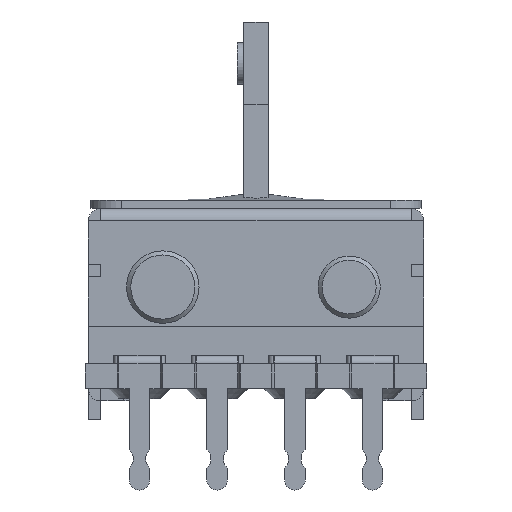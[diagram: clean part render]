
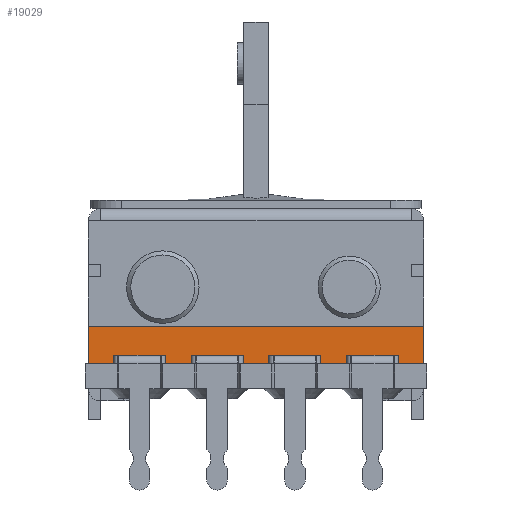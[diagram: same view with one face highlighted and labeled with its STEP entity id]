
A CAD part, left-side view. The second image highlights one B-rep face of the part: STEP entity #19029.
In plain terms, the highlighted planar face has unit normal (-1, 0, 0).
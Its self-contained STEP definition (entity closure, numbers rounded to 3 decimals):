
#182 = PLANE('',#183);
#183 = AXIS2_PLACEMENT_3D('',#184,#185,#186);
#184 = CARTESIAN_POINT('',(0.,8.1,-8.466));
#185 = DIRECTION('',(0.,1.,0.));
#186 = DIRECTION('',(0.,0.,1.));
#283 = PLANE('',#284);
#284 = AXIS2_PLACEMENT_3D('',#285,#286,#287);
#285 = CARTESIAN_POINT('',(0.,-8.1,-8.466));
#286 = DIRECTION('',(0.,-1.,0.));
#287 = DIRECTION('',(0.,0.,-1.));
#5053 = VERTEX_POINT('',#5054);
#5054 = CARTESIAN_POINT('',(-31.,-8.1,-6.1));
#5067 = PLANE('',#5068);
#5068 = AXIS2_PLACEMENT_3D('',#5069,#5070,#5071);
#5069 = CARTESIAN_POINT('',(-40.,10.,-6.1));
#5070 = DIRECTION('',(0.,0.,1.));
#5071 = DIRECTION('',(1.,0.,0.));
#5078 = EDGE_CURVE('',#5079,#5053,#5081,.T.);
#5079 = VERTEX_POINT('',#5080);
#5080 = CARTESIAN_POINT('',(-31.,-8.1,-7.9));
#5081 = SURFACE_CURVE('',#5082,(#5086,#5092),.PCURVE_S1.);
#5082 = LINE('',#5083,#5084);
#5083 = CARTESIAN_POINT('',(-31.,-8.1,-7.283));
#5084 = VECTOR('',#5085,1.);
#5085 = DIRECTION('',(0.,0.,1.));
#5086 = PCURVE('',#283,#5087);
#5087 = DEFINITIONAL_REPRESENTATION('',(#5088),#5091);
#5088 = B_SPLINE_CURVE_WITH_KNOTS('',1,(#5089,#5090),.UNSPECIFIED.,.F.,
  .F.,(2,2),(-0.617,1.183),.PIECEWISE_BEZIER_KNOTS.);
#5089 = CARTESIAN_POINT('',(-0.566,-31.));
#5090 = CARTESIAN_POINT('',(-2.366,-31.));
#5091 = ( GEOMETRIC_REPRESENTATION_CONTEXT(2) 
PARAMETRIC_REPRESENTATION_CONTEXT() REPRESENTATION_CONTEXT('2D SPACE',''
  ) );
#5092 = PCURVE('',#5093,#5098);
#5093 = PLANE('',#5094);
#5094 = AXIS2_PLACEMENT_3D('',#5095,#5096,#5097);
#5095 = CARTESIAN_POINT('',(-31.,10.,-6.1));
#5096 = DIRECTION('',(1.,0.,0.));
#5097 = DIRECTION('',(0.,0.,-1.));
#5098 = DEFINITIONAL_REPRESENTATION('',(#5099),#5102);
#5099 = B_SPLINE_CURVE_WITH_KNOTS('',1,(#5100,#5101),.UNSPECIFIED.,.F.,
  .F.,(2,2),(-0.617,1.183),.PIECEWISE_BEZIER_KNOTS.);
#5100 = CARTESIAN_POINT('',(1.8,-18.1));
#5101 = CARTESIAN_POINT('',(0.,-18.1));
#5102 = ( GEOMETRIC_REPRESENTATION_CONTEXT(2) 
PARAMETRIC_REPRESENTATION_CONTEXT() REPRESENTATION_CONTEXT('2D SPACE',''
  ) );
#5119 = PLANE('',#5120);
#5120 = AXIS2_PLACEMENT_3D('',#5121,#5122,#5123);
#5121 = CARTESIAN_POINT('',(-36.5,-8.25,-7.9));
#5122 = DIRECTION('',(0.,0.,1.));
#5123 = DIRECTION('',(1.,0.,0.));
#7421 = VERTEX_POINT('',#7422);
#7422 = CARTESIAN_POINT('',(-31.,8.1,-7.9));
#7442 = EDGE_CURVE('',#7443,#7421,#7445,.T.);
#7443 = VERTEX_POINT('',#7444);
#7444 = CARTESIAN_POINT('',(-31.,8.1,-6.1));
#7445 = SURFACE_CURVE('',#7446,(#7450,#7456),.PCURVE_S1.);
#7446 = LINE('',#7447,#7448);
#7447 = CARTESIAN_POINT('',(-31.,8.1,-7.283));
#7448 = VECTOR('',#7449,1.);
#7449 = DIRECTION('',(0.,0.,-1.));
#7450 = PCURVE('',#182,#7451);
#7451 = DEFINITIONAL_REPRESENTATION('',(#7452),#7455);
#7452 = B_SPLINE_CURVE_WITH_KNOTS('',1,(#7453,#7454),.UNSPECIFIED.,.F.,
  .F.,(2,2),(-1.183,0.617),.PIECEWISE_BEZIER_KNOTS.);
#7453 = CARTESIAN_POINT('',(2.366,-31.));
#7454 = CARTESIAN_POINT('',(0.566,-31.));
#7455 = ( GEOMETRIC_REPRESENTATION_CONTEXT(2) 
PARAMETRIC_REPRESENTATION_CONTEXT() REPRESENTATION_CONTEXT('2D SPACE',''
  ) );
#7456 = PCURVE('',#5093,#7457);
#7457 = DEFINITIONAL_REPRESENTATION('',(#7458),#7461);
#7458 = B_SPLINE_CURVE_WITH_KNOTS('',1,(#7459,#7460),.UNSPECIFIED.,.F.,
  .F.,(2,2),(-1.183,0.617),.PIECEWISE_BEZIER_KNOTS.);
#7459 = CARTESIAN_POINT('',(0.,-1.9));
#7460 = CARTESIAN_POINT('',(1.8,-1.9));
#7461 = ( GEOMETRIC_REPRESENTATION_CONTEXT(2) 
PARAMETRIC_REPRESENTATION_CONTEXT() REPRESENTATION_CONTEXT('2D SPACE',''
  ) );
#17120 = EDGE_CURVE('',#17121,#5079,#17123,.T.);
#17121 = VERTEX_POINT('',#17122);
#17122 = CARTESIAN_POINT('',(-31.,-7.5,-7.9));
#17123 = SURFACE_CURVE('',#17124,(#17128,#17135),.PCURVE_S1.);
#17124 = LINE('',#17125,#17126);
#17125 = CARTESIAN_POINT('',(-31.,10.,-7.9));
#17126 = VECTOR('',#17127,1.);
#17127 = DIRECTION('',(0.,-1.,0.));
#17128 = PCURVE('',#5119,#17129);
#17129 = DEFINITIONAL_REPRESENTATION('',(#17130),#17134);
#17130 = LINE('',#17131,#17132);
#17131 = CARTESIAN_POINT('',(5.5,18.25));
#17132 = VECTOR('',#17133,1.);
#17133 = DIRECTION('',(0.,-1.));
#17134 = ( GEOMETRIC_REPRESENTATION_CONTEXT(2) 
PARAMETRIC_REPRESENTATION_CONTEXT() REPRESENTATION_CONTEXT('2D SPACE',''
  ) );
#17135 = PCURVE('',#5093,#17136);
#17136 = DEFINITIONAL_REPRESENTATION('',(#17137),#17141);
#17137 = LINE('',#17138,#17139);
#17138 = CARTESIAN_POINT('',(1.8,0.));
#17139 = VECTOR('',#17140,1.);
#17140 = DIRECTION('',(0.,-1.));
#17141 = ( GEOMETRIC_REPRESENTATION_CONTEXT(2) 
PARAMETRIC_REPRESENTATION_CONTEXT() REPRESENTATION_CONTEXT('2D SPACE',''
  ) );
#17143 = EDGE_CURVE('',#17144,#17121,#17146,.T.);
#17144 = VERTEX_POINT('',#17145);
#17145 = CARTESIAN_POINT('',(-31.,7.5,-7.9));
#17146 = SURFACE_CURVE('',#17147,(#17151,#17158),.PCURVE_S1.);
#17147 = LINE('',#17148,#17149);
#17148 = CARTESIAN_POINT('',(-31.,10.,-7.9));
#17149 = VECTOR('',#17150,1.);
#17150 = DIRECTION('',(0.,-1.,0.));
#17151 = PCURVE('',#5119,#17152);
#17152 = DEFINITIONAL_REPRESENTATION('',(#17153),#17157);
#17153 = LINE('',#17154,#17155);
#17154 = CARTESIAN_POINT('',(5.5,18.25));
#17155 = VECTOR('',#17156,1.);
#17156 = DIRECTION('',(0.,-1.));
#17157 = ( GEOMETRIC_REPRESENTATION_CONTEXT(2) 
PARAMETRIC_REPRESENTATION_CONTEXT() REPRESENTATION_CONTEXT('2D SPACE',''
  ) );
#17158 = PCURVE('',#5093,#17159);
#17159 = DEFINITIONAL_REPRESENTATION('',(#17160),#17164);
#17160 = LINE('',#17161,#17162);
#17161 = CARTESIAN_POINT('',(1.8,0.));
#17162 = VECTOR('',#17163,1.);
#17163 = DIRECTION('',(0.,-1.));
#17164 = ( GEOMETRIC_REPRESENTATION_CONTEXT(2) 
PARAMETRIC_REPRESENTATION_CONTEXT() REPRESENTATION_CONTEXT('2D SPACE',''
  ) );
#17166 = EDGE_CURVE('',#7421,#17144,#17167,.T.);
#17167 = SURFACE_CURVE('',#17168,(#17172,#17179),.PCURVE_S1.);
#17168 = LINE('',#17169,#17170);
#17169 = CARTESIAN_POINT('',(-31.,10.,-7.9));
#17170 = VECTOR('',#17171,1.);
#17171 = DIRECTION('',(0.,-1.,0.));
#17172 = PCURVE('',#5119,#17173);
#17173 = DEFINITIONAL_REPRESENTATION('',(#17174),#17178);
#17174 = LINE('',#17175,#17176);
#17175 = CARTESIAN_POINT('',(5.5,18.25));
#17176 = VECTOR('',#17177,1.);
#17177 = DIRECTION('',(0.,-1.));
#17178 = ( GEOMETRIC_REPRESENTATION_CONTEXT(2) 
PARAMETRIC_REPRESENTATION_CONTEXT() REPRESENTATION_CONTEXT('2D SPACE',''
  ) );
#17179 = PCURVE('',#5093,#17180);
#17180 = DEFINITIONAL_REPRESENTATION('',(#17181),#17185);
#17181 = LINE('',#17182,#17183);
#17182 = CARTESIAN_POINT('',(1.8,0.));
#17183 = VECTOR('',#17184,1.);
#17184 = DIRECTION('',(0.,-1.));
#17185 = ( GEOMETRIC_REPRESENTATION_CONTEXT(2) 
PARAMETRIC_REPRESENTATION_CONTEXT() REPRESENTATION_CONTEXT('2D SPACE',''
  ) );
#19029 = ADVANCED_FACE('',(#19030),#5093,.F.);
#19030 = FACE_BOUND('',#19031,.F.);
#19031 = EDGE_LOOP('',(#19032,#19033,#19054,#19055,#19056,#19057));
#19032 = ORIENTED_EDGE('',*,*,#7442,.F.);
#19033 = ORIENTED_EDGE('',*,*,#19034,.T.);
#19034 = EDGE_CURVE('',#7443,#5053,#19035,.T.);
#19035 = SURFACE_CURVE('',#19036,(#19040,#19047),.PCURVE_S1.);
#19036 = LINE('',#19037,#19038);
#19037 = CARTESIAN_POINT('',(-31.,10.,-6.1));
#19038 = VECTOR('',#19039,1.);
#19039 = DIRECTION('',(0.,-1.,0.));
#19040 = PCURVE('',#5093,#19041);
#19041 = DEFINITIONAL_REPRESENTATION('',(#19042),#19046);
#19042 = LINE('',#19043,#19044);
#19043 = CARTESIAN_POINT('',(0.,0.));
#19044 = VECTOR('',#19045,1.);
#19045 = DIRECTION('',(0.,-1.));
#19046 = ( GEOMETRIC_REPRESENTATION_CONTEXT(2) 
PARAMETRIC_REPRESENTATION_CONTEXT() REPRESENTATION_CONTEXT('2D SPACE',''
  ) );
#19047 = PCURVE('',#5067,#19048);
#19048 = DEFINITIONAL_REPRESENTATION('',(#19049),#19053);
#19049 = LINE('',#19050,#19051);
#19050 = CARTESIAN_POINT('',(9.,0.));
#19051 = VECTOR('',#19052,1.);
#19052 = DIRECTION('',(0.,-1.));
#19053 = ( GEOMETRIC_REPRESENTATION_CONTEXT(2) 
PARAMETRIC_REPRESENTATION_CONTEXT() REPRESENTATION_CONTEXT('2D SPACE',''
  ) );
#19054 = ORIENTED_EDGE('',*,*,#5078,.F.);
#19055 = ORIENTED_EDGE('',*,*,#17120,.F.);
#19056 = ORIENTED_EDGE('',*,*,#17143,.F.);
#19057 = ORIENTED_EDGE('',*,*,#17166,.F.);
